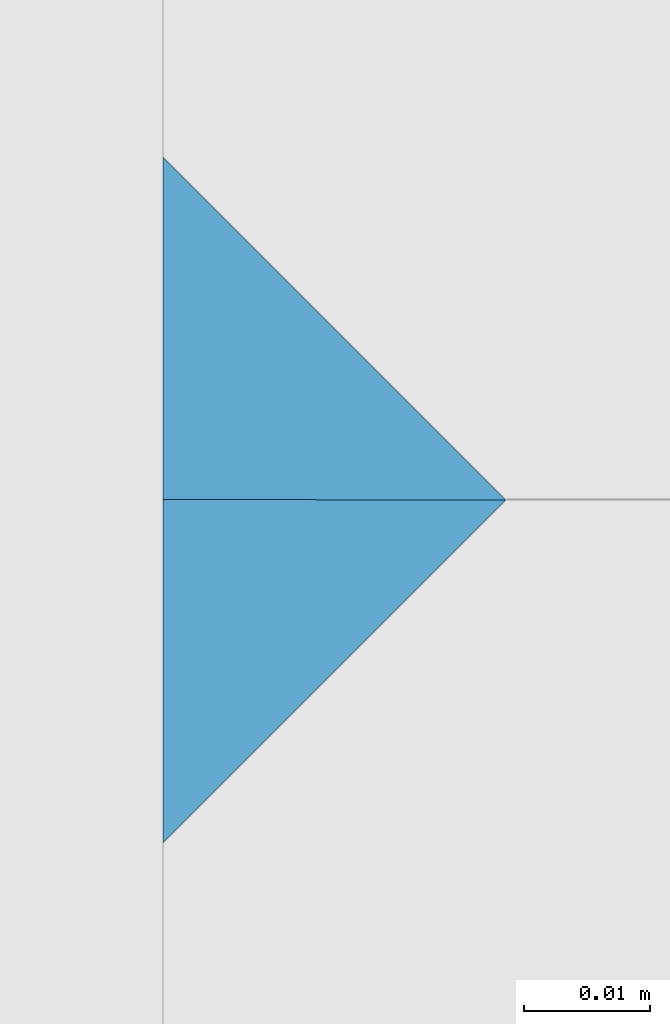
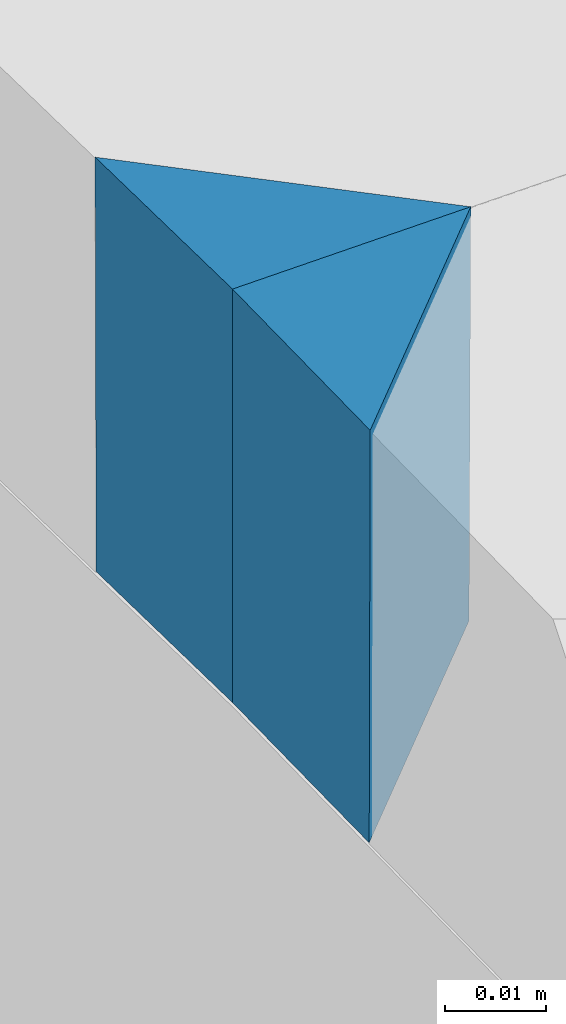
# One storey, part 46 of 47: 2 beams.
"""IFC2X3 building model written with IfcOpenShell, lengths in millimetres."""

import ifcopenshell
import ifcopenshell.guid

model = None  # the IFC model being written
_history = None  # IfcOwnerHistory: only IFC2X3 demands one
_inside = {}  # id of a spatial element -> (the spatial element, [elements in it])
_under = {}  # id of a project, library or spatial element -> (it, [spatial elements below it])
_declared = {}  # id of a project -> (the project, [libraries it declares])
_typed = {}  # id of a type object -> (the type object, [elements of that type])
_made_of = {}  # id of a material, layer set ... -> (it, [elements and type objects made of it])


def new_model(schema):
    """Start an empty IFC model of exactly this schema.

    Asked for "IFC4X3", IfcOpenShell would pick the latest addendum, in which some entities
    have other attributes; the version numbers below select the first issue.
    IFC2X3 requires an IfcOwnerHistory on every rooted entity: one is made here for all.
    """
    global model, _history
    if schema == "IFC4X3":
        model = ifcopenshell.file(schema_version=(4, 3, 0, 0))
    else:
        model = ifcopenshell.file(schema=schema)
    _inside.clear()
    _under.clear()
    _declared.clear()
    _typed.clear()
    _made_of.clear()
    _history = None
    if model.schema == "IFC2X3":
        org = make("IfcOrganization", Name="unknown")
        user = make(
            "IfcPersonAndOrganization",
            ThePerson=make("IfcPerson", FamilyName="unknown"),
            TheOrganization=org,
        )
        app = make(
            "IfcApplication",
            ApplicationDeveloper=org,
            Version="unknown",
            ApplicationFullName="unknown",
            ApplicationIdentifier="unknown",
        )
        _history = make(
            "IfcOwnerHistory",
            OwningUser=user,
            OwningApplication=app,
            ChangeAction="ADDED",
            CreationDate=0,
        )
    return model


def make(cls, **values):
    """One entity of the class cls with the attributes given. An attribute that is None is left unset."""
    return model.create_entity(
        cls, **{name: value for name, value in values.items() if value is not None}
    )


def rooted(cls, **values):
    """An entity with a GlobalId (a new one), such as an element, a storey or a relation."""
    return make(cls, GlobalId=ifcopenshell.guid.new(), OwnerHistory=_history, **values)


def si_unit(unit_type, name, prefix=None):
    """IfcSIUnit, for example si_unit("LENGTHUNIT", "METRE", prefix="MILLI")."""
    return make("IfcSIUnit", UnitType=unit_type, Prefix=prefix, Name=name)


def assignment(units):
    """IfcUnitAssignment: the units of a project."""
    return None if units is None else make("IfcUnitAssignment", Units=units)


def point(xyz):
    """IfcCartesianPoint."""
    return None if xyz is None else make("IfcCartesianPoint", Coordinates=xyz)


def direction(xyz):
    """IfcDirection."""
    return None if xyz is None else make("IfcDirection", DirectionRatios=xyz)


def frame(location, z_axis=None, x_axis=None):
    """IfcAxis2Placement3D, a coordinate frame: its origin and axes. An axis left out is left unset."""
    return make(
        "IfcAxis2Placement3D",
        Location=point(location),
        Axis=direction(z_axis),
        RefDirection=direction(x_axis),
    )


def origin_with_axes():
    """The frame at (0, 0, 0) with the z axis (0, 0, 1) and the x axis (1, 0, 0) written out."""
    return frame((0.0, 0.0, 0.0), z_axis=(0.0, 0.0, 1.0), x_axis=(1.0, 0.0, 0.0))


def place(relative_to, where):
    """IfcLocalPlacement: puts the frame where relative to a parent placement (None: the world)."""
    return make(
        "IfcLocalPlacement", PlacementRelTo=relative_to, RelativePlacement=where
    )


def context(
    kind, dimensions, precision=None, world=None, true_north=None, identifier=None
):
    """IfcGeometricRepresentationContext, for example the 3D "Model" context."""
    return make(
        "IfcGeometricRepresentationContext",
        ContextIdentifier=identifier,
        ContextType=kind,
        CoordinateSpaceDimension=dimensions,
        Precision=precision,
        WorldCoordinateSystem=world,
        TrueNorth=true_north,
    )


def subcontext(parent, identifier, kind, view, scale=None):
    """IfcGeometricRepresentationSubContext, for example "Body" below "Model"."""
    return make(
        "IfcGeometricRepresentationSubContext",
        ContextIdentifier=identifier,
        ContextType=kind,
        ParentContext=parent,
        TargetScale=scale,
        TargetView=view,
    )


def project(units=None, contexts=None):
    """IfcProject with its units and contexts."""
    return rooted(
        "IfcProject",
        Name="project",
        RepresentationContexts=contexts,
        UnitsInContext=assignment(units),
    )


def spatial(cls, under=None, at=None, **own):
    """A site, building, storey or space (cls), placed at a placement, below another one or the project."""
    s = rooted(cls, ObjectPlacement=at, **own)
    if under is not None:
        _under.setdefault(under.id(), (under, []))[1].append(s)
    return s


def faces_of(points, faces, orient=None, outer=None):
    """IfcFace entities. A face is a list of loops; a loop is a list of indices into points, from 0.

    orient and outer hold one flag for each loop. By default every Orientation is true, the
    first loop of a face is its IfcFaceOuterBound and the others are IfcFaceBound.
    """
    made = []
    for i, loops in enumerate(faces):
        bounds = []
        for j, loop in enumerate(loops):
            is_outer = j == 0 if outer is None else outer[i][j]
            bounds.append(
                make(
                    "IfcFaceOuterBound" if is_outer else "IfcFaceBound",
                    Bound=make("IfcPolyLoop", Polygon=[points[k] for k in loop]),
                    Orientation=True if orient is None else orient[i][j],
                )
            )
        made.append(make("IfcFace", Bounds=bounds))
    return made


def faceted_brep(points, faces, orient=None, outer=None, voids=None):
    """IfcFacetedBrep: a solid bounded by flat faces; with voids (closed shells), ...WithVoids."""
    shared = [point(p) for p in points]
    hull = make("IfcClosedShell", CfsFaces=faces_of(shared, faces, orient, outer))
    if voids is None:
        return make("IfcFacetedBrep", Outer=hull)
    return make(
        "IfcFacetedBrepWithVoids",
        Outer=hull,
        Voids=[
            make(cls, CfsFaces=faces_of(shared, fs, o, b)) for cls, fs, o, b in voids
        ],
    )


def shape(context_of_items, identifier, shape_type, items):
    """IfcShapeRepresentation: the items that make up one representation, for example the "Body"."""
    return make(
        "IfcShapeRepresentation",
        ContextOfItems=context_of_items,
        RepresentationIdentifier=identifier,
        RepresentationType=shape_type,
        Items=items,
    )


def material(Name=None, Category=None):
    """IfcMaterial."""
    return make("IfcMaterial", Name=Name, Category=Category)


def made_of(thing, what):
    """Note that an element or type object is made of a material, layer set ...; save() writes the relation."""
    if what is not None:
        _made_of.setdefault(what.id(), (what, []))[1].append(thing)
    return thing


def type_object(cls, material=None, **own):
    """A type object (cls), such as IfcWallType, which elements share."""
    return made_of(rooted(cls, **own), material)


def element(
    cls,
    number,
    at=None,
    inside=None,
    cuts=None,
    type_object=None,
    material=None,
    context=None,
    identifier="Body",
    shape_type=None,
    held_by="IfcProductDefinitionShape",
    body=None,
    shapes=None,
    **own,
):
    """One element of the class cls, such as IfcWall. Its Tag is "e" and its number.

    at: its placement. inside: the storey or other place that contains it. cuts: it is an
    opening in that element (IfcRelVoidsElement). A single representation is given by context,
    identifier, shape_type and body (its items); several are given by shapes. held_by: the class
    of the entity that holds the representations. save() writes the other relations.
    """
    e = rooted(cls, Tag="e%d" % number, ObjectPlacement=at, **own)
    if body is not None:
        shapes = [shape(context, identifier, shape_type, body)]
    if shapes is not None:
        e.Representation = make(held_by, Representations=shapes)
    if inside is not None:
        _inside.setdefault(inside.id(), (inside, []))[1].append(e)
    if cuts is not None:
        rooted(
            "IfcRelVoidsElement", RelatingBuildingElement=cuts, RelatedOpeningElement=e
        )
    if type_object is not None:
        _typed.setdefault(type_object.id(), (type_object, []))[1].append(e)
    return made_of(e, material)


def aggregate(whole, parts):
    """IfcRelAggregates: a whole, such as a stair, and the parts it consists of."""
    return rooted("IfcRelAggregates", RelatingObject=whole, RelatedObjects=parts)


def save(model, path):
    """Write the relations noted so far, then the file.

    IfcRelAggregates (storeys below a building ...), IfcRelContainedInSpatialStructure (elements
    in a storey), IfcRelDefinesByType, IfcRelAssociatesMaterial and IfcRelDeclares: one each for
    every whole, place, type object, material and project.
    """
    for whole, parts in _under.values():
        aggregate(whole, parts)
    for where, things in _inside.values():
        rooted(
            "IfcRelContainedInSpatialStructure",
            RelatedElements=things,
            RelatingStructure=where,
        )
    for kind, things in _typed.values():
        rooted("IfcRelDefinesByType", RelatedObjects=things, RelatingType=kind)
    for what, things in _made_of.values():
        rooted("IfcRelAssociatesMaterial", RelatedObjects=things, RelatingMaterial=what)
    for by, libraries in _declared.values():
        rooted("IfcRelDeclares", RelatingContext=by, RelatedDefinitions=libraries)
    model.write(path)


model = new_model("IFC2X3")

# Units and contexts
model_context = context("Model", 3, precision=1e-05, world=origin_with_axes())
body_context = subcontext(model_context, "Body", "Model", "MODEL_VIEW")
ifc_project = project(units=[si_unit("LENGTHUNIT", "METRE", prefix="MILLI"), si_unit("AREAUNIT", "SQUARE_METRE"), si_unit("VOLUMEUNIT", "CUBIC_METRE"), si_unit("MASSUNIT", "GRAM", prefix="KILO"), si_unit("TIMEUNIT", "SECOND"), si_unit("PLANEANGLEUNIT", "RADIAN"), si_unit("SOLIDANGLEUNIT", "STERADIAN"), si_unit("THERMODYNAMICTEMPERATUREUNIT", "DEGREE_CELSIUS"), si_unit("LUMINOUSINTENSITYUNIT", "LUMEN")], contexts=[model_context])

# Site, building, storey
site_placement = place(None, origin_with_axes())
site = spatial("IfcSite", under=ifc_project, at=site_placement, Name="Undefined", CompositionType="ELEMENT")
building_placement = place(site_placement, origin_with_axes())
building = spatial("IfcBuilding", under=site, at=building_placement, Name="Undefined", CompositionType="ELEMENT")
storey_placement = place(building_placement, origin_with_axes())
storey = spatial("IfcBuildingStorey", under=building, at=storey_placement, Name="Undefined", CompositionType="ELEMENT", Elevation=0.0)

# Beams
ifc_material = material(Name="TIMBER/Timber_Undefined")
beam_type = type_object("IfcBeamType", Name="50*50", PredefinedType="NOTDEFINED")
beam_1_placement = place(storey_placement, frame((-608.702506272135, 62364.5001003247, 3174.2192060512), z_axis=(0.707226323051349, -0.706981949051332, -0.00272978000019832), x_axis=(-0.70680318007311, -0.706948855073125, -0.0255456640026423)))
element("IfcBeam", 1, at=beam_1_placement, inside=storey, type_object=beam_type, material=ifc_material, Name="BEAM", ObjectType="50*50", context=body_context, shape_type="Brep", body=[
    faceted_brep([(-26.4222658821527, -25.0000000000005, 25.0000000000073), (-7.16966926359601, -25.0000000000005, 5.70994576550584), (12.1319333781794, -25.0000000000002, 25.0), (-25.0086637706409, 24.9999999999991, 25.0), (13.2730225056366, 24.9999999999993, 25.0), (-5.89215044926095, 24.9999999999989, 5.8462938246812)], [[[0, 1, 2]], [[3, 0, 2, 4]], [[3, 4, 5]], [[0, 3, 5, 1]], [[4, 2, 1, 5]]]),
])
beam_2_placement = place(storey_placement, frame((-608.702506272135, 62365.4998996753, 3174.2192060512), z_axis=(0.707226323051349, 0.706981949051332, -0.00272978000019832), x_axis=(-0.70680318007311, 0.706948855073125, -0.0255456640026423)))
element("IfcBeam", 2, at=beam_2_placement, inside=storey, type_object=beam_type, material=ifc_material, Name="BEAM", ObjectType="50*50", context=body_context, shape_type="Brep", body=[
    faceted_brep([(-26.4154158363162, 25.0, 25.0), (12.1319333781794, 25.0, 24.9999999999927), (-7.14705769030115, 25.0, 5.73254381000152), (-25.0011704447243, -25.0, 24.9999999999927), (-5.86935275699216, -25.0, 5.86907787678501), (13.2730225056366, -25.0, 24.9999999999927)], [[[0, 1, 2]], [[3, 0, 2, 4]], [[3, 4, 5]], [[0, 3, 5, 1]], [[4, 2, 1, 5]]]),
])

save(model, "model.ifc")
